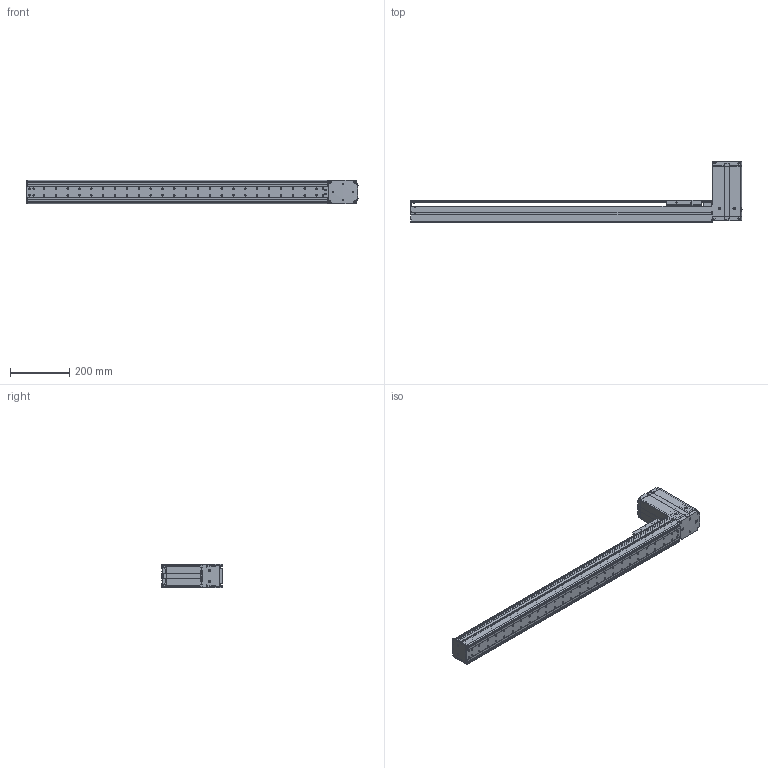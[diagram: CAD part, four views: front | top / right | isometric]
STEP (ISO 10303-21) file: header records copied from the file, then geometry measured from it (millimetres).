
FILE_DESCRIPTION((''),'2;1');
FILE_NAME('BE10_-BT-M_N-80_IGS_PRT','2017-06-18T',(' '),(''),'PRO/ENGINEER BY PARAMETRIC TECHNOLOGY CORPORATION, 2015030','PRO/ENGINEER BY PARAMETRIC TECHNOLOGY CORPORATION, 2015030','');
FILE_SCHEMA(('CONFIG_CONTROL_DESIGN'));
Products named in the file (1): BE10_-BT-M_N-80_IGS_PRT
Bounding box: 1120.8 x 204.72 x 78 mm (x, y, z)
Volume: 1416042 mm3; surface area: 1005352 mm2
Topology: 3 solids, 142 shells, 2103 faces, 5741 edges, 3781 vertices
Faces by surface type: plane 994, cylinder 938, cone 111, sphere 30, torus 27, bspline 3
Entity records: 68432 total; most frequent: CARTESIAN_POINT 14024, DIRECTION 11557, ORIENTED_EDGE 10878, EDGE_CURVE 5679, AXIS2_PLACEMENT_3D 4152, VERTEX_POINT 3781, VECTOR 3253, LINE 3253
